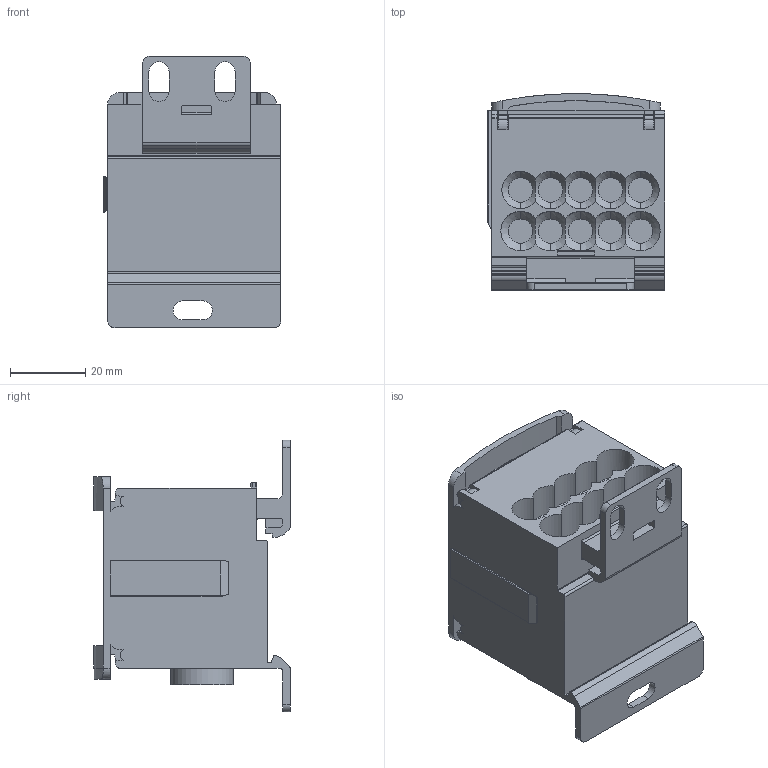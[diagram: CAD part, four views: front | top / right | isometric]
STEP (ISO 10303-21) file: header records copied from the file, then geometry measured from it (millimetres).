
FILE_DESCRIPTION(/* description */ ('Unknown'),/* implementation_level */ '2;1');
FILE_NAME(/* name */ '9D01_5_175_0210',/* time_stamp */ '2023-07-03T16:31:43+02:00',/* author */ ('Unknown'),/* organization */ ('Unknown'),/* preprocessor_version */ 'ST-DEVELOPER v18.102',/* originating_system */ 'Solid Edge',/* authorisation */ 'Unknown');
FILE_SCHEMA (('AUTOMOTIVE_DESIGN {1 0 10303 214 3 1 1}'));
Length unit declared in the file: millimetre
Products named in the file (1): 9D01_5_175_0210
Bounding box: 47.4 x 52.4 x 72.5 mm (x, y, z)
Volume: 86523.5 mm3; surface area: 23374.5 mm2
Topology: 1 solids, 1 shells, 378 faces, 1082 edges, 714 vertices
Faces by surface type: plane 202, cylinder 152, cone 24
Entity records: 12819 total; most frequent: CARTESIAN_POINT 2606, ORIENTED_EDGE 2164, DIRECTION 2164, EDGE_CURVE 1082, AXIS2_PLACEMENT_3D 743, VERTEX_POINT 714, LINE 678, VECTOR 678
